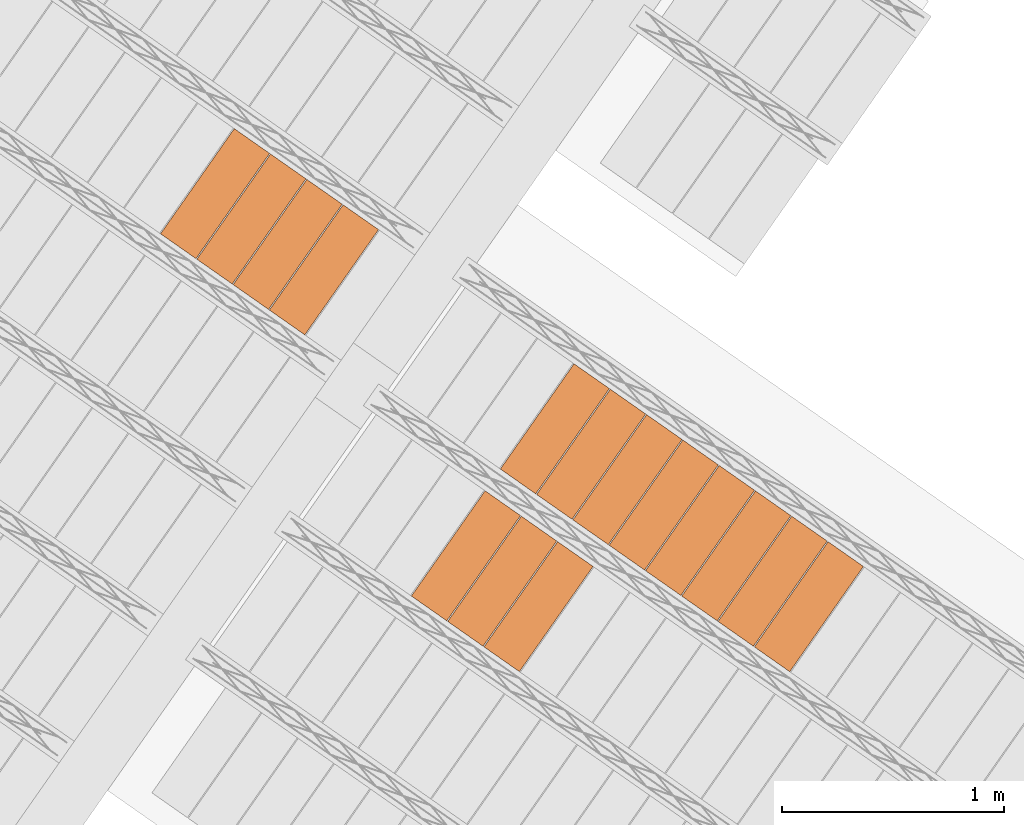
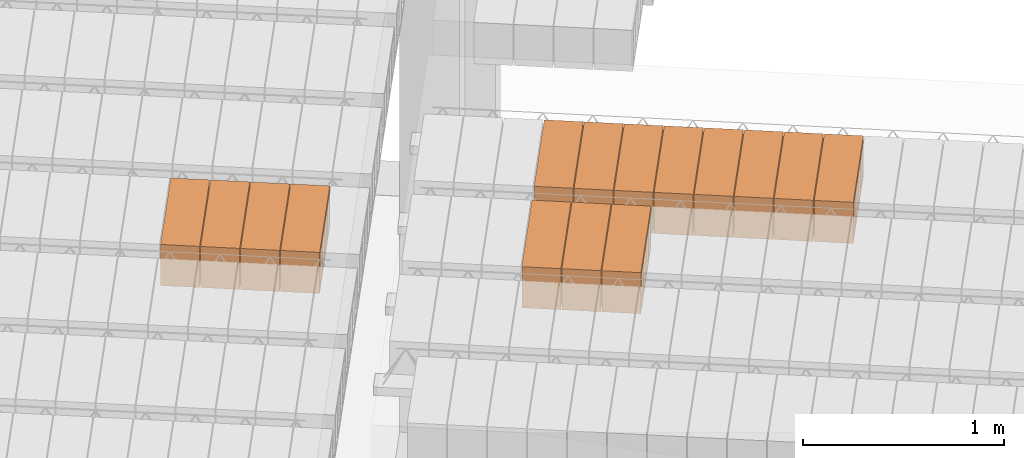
# One storey, part 66 of 80: 15 proxies.
"""IFC2X3 building model written with IfcOpenShell, lengths in metres."""

from ifc_helpers import new_model, entity, si_unit, converted_unit, derived_unit, direction, frame, origin, place, context, subcontext, project, spatial, polyline, outline, extrude, type_object, element, save


model = new_model("IFC2X3")

# Units and contexts
model_context = context("Model", 3, precision=1e-05, world=origin(), true_north=direction((6.123031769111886e-17, 1.0)))
body_context = subcontext(model_context, "Body", "Model", "MODEL_VIEW")
ifc_project = project(units=[si_unit("LENGTHUNIT", "METRE"), si_unit("AREAUNIT", "SQUARE_METRE"), si_unit("VOLUMEUNIT", "CUBIC_METRE"), converted_unit("PLANEANGLEUNIT", "DEGREE", entity("IfcPlaneAngleMeasure", 0.017453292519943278), si_unit("PLANEANGLEUNIT", "RADIAN"), dimensions=[0, 0, 0, 0, 0, 0, 0]), si_unit("MASSUNIT", "GRAM", prefix="KILO"), derived_unit("MASSDENSITYUNIT", [(si_unit("MASSUNIT", "GRAM", prefix="KILO"), 1), (si_unit("LENGTHUNIT", "METRE"), -3)]), derived_unit("IONCONCENTRATIONUNIT", [(si_unit("MASSUNIT", "GRAM", prefix="KILO"), 1), (si_unit("LENGTHUNIT", "METRE"), -3)]), derived_unit("MOMENTOFINERTIAUNIT", [(si_unit("LENGTHUNIT", "METRE"), 4)]), si_unit("TIMEUNIT", "SECOND"), si_unit("FREQUENCYUNIT", "HERTZ"), si_unit("THERMODYNAMICTEMPERATUREUNIT", "DEGREE_CELSIUS"), derived_unit("THERMALTRANSMITTANCEUNIT", [(si_unit("MASSUNIT", "GRAM", prefix="KILO"), 1), (si_unit("THERMODYNAMICTEMPERATUREUNIT", "KELVIN"), -1), (si_unit("TIMEUNIT", "SECOND"), -3)]), derived_unit("THERMALCONDUCTANCEUNIT", [(si_unit("MASSUNIT", "GRAM", prefix="KILO"), 1), (si_unit("THERMODYNAMICTEMPERATUREUNIT", "KELVIN"), -1), (si_unit("TIMEUNIT", "SECOND"), -3), (si_unit("LENGTHUNIT", "METRE"), 1)]), derived_unit("VOLUMETRICFLOWRATEUNIT", [(si_unit("LENGTHUNIT", "METRE", prefix="DECI"), 3), (si_unit("TIMEUNIT", "SECOND"), -1)]), derived_unit("MASSFLOWRATEUNIT", [(si_unit("MASSUNIT", "GRAM", prefix="KILO"), 1), (si_unit("TIMEUNIT", "SECOND"), -1)]), derived_unit("ROTATIONALFREQUENCYUNIT", [(si_unit("TIMEUNIT", "SECOND"), -1)]), si_unit("ELECTRICCURRENTUNIT", "AMPERE"), si_unit("ELECTRICVOLTAGEUNIT", "VOLT"), si_unit("POWERUNIT", "WATT"), si_unit("FORCEUNIT", "NEWTON", prefix="KILO"), si_unit("ILLUMINANCEUNIT", "LUX"), si_unit("LUMINOUSFLUXUNIT", "LUMEN"), si_unit("LUMINOUSINTENSITYUNIT", "CANDELA"), si_unit("ENERGYUNIT", "JOULE"), derived_unit("USERDEFINED", [(si_unit("MASSUNIT", "GRAM", prefix="KILO"), -1), (si_unit("LENGTHUNIT", "METRE"), -2), (si_unit("TIMEUNIT", "SECOND"), 3), (si_unit("LUMINOUSFLUXUNIT", "LUMEN"), 1)]), derived_unit("USERDEFINED", [(si_unit("MASSUNIT", "GRAM", prefix="KILO"), 1), (si_unit("TIMEUNIT", "SECOND"), -3), (si_unit("LENGTHUNIT", "METRE"), 3), (si_unit("ELECTRICCURRENTUNIT", "AMPERE"), -2)]), derived_unit("SOUNDPOWERUNIT", [(si_unit("MASSUNIT", "GRAM", prefix="KILO"), 1), (si_unit("TIMEUNIT", "SECOND"), -3), (si_unit("LENGTHUNIT", "METRE"), 2)]), derived_unit("SOUNDPRESSUREUNIT", [(si_unit("MASSUNIT", "GRAM", prefix="KILO"), 1), (si_unit("LENGTHUNIT", "METRE"), -1), (si_unit("TIMEUNIT", "SECOND"), -2)]), derived_unit("LINEARVELOCITYUNIT", [(si_unit("LENGTHUNIT", "METRE"), 1), (si_unit("TIMEUNIT", "SECOND"), -1)]), si_unit("PRESSUREUNIT", "PASCAL"), derived_unit("USERDEFINED", [(si_unit("MASSUNIT", "GRAM", prefix="KILO"), 1), (si_unit("LENGTHUNIT", "METRE"), -2), (si_unit("TIMEUNIT", "SECOND"), -2)]), derived_unit("LINEARFORCEUNIT", [(si_unit("MASSUNIT", "GRAM", prefix="KILO"), 1), (si_unit("TIMEUNIT", "SECOND"), -2)]), derived_unit("PLANARFORCEUNIT", [(si_unit("MASSUNIT", "GRAM", prefix="KILO"), 1), (si_unit("LENGTHUNIT", "METRE"), -1), (si_unit("TIMEUNIT", "SECOND"), -2)]), derived_unit("SPECIFICHEATCAPACITYUNIT", [(si_unit("THERMODYNAMICTEMPERATUREUNIT", "KELVIN"), -1), (si_unit("LENGTHUNIT", "METRE"), 2), (si_unit("TIMEUNIT", "SECOND"), -2)]), derived_unit("HEATFLUXDENSITYUNIT", [(si_unit("MASSUNIT", "GRAM", prefix="KILO"), 1), (si_unit("TIMEUNIT", "SECOND"), -3)]), derived_unit("HEATINGVALUEUNIT", [(si_unit("LENGTHUNIT", "METRE"), 2), (si_unit("TIMEUNIT", "SECOND"), -2)]), derived_unit("VAPORPERMEABILITYUNIT", [(si_unit("LENGTHUNIT", "METRE"), -1), (si_unit("TIMEUNIT", "SECOND"), 1)]), derived_unit("DYNAMICVISCOSITYUNIT", [(si_unit("MASSUNIT", "GRAM", prefix="KILO"), 1), (si_unit("TIMEUNIT", "SECOND"), -1), (si_unit("LENGTHUNIT", "METRE"), -1)]), derived_unit("THERMALEXPANSIONCOEFFICIENTUNIT", [(si_unit("THERMODYNAMICTEMPERATUREUNIT", "KELVIN"), -1)]), derived_unit("MODULUSOFELASTICITYUNIT", [(si_unit("MASSUNIT", "GRAM", prefix="KILO"), 1), (si_unit("LENGTHUNIT", "METRE"), -1), (si_unit("TIMEUNIT", "SECOND"), -2)]), derived_unit("ISOTHERMALMOISTURECAPACITYUNIT", [(si_unit("MASSUNIT", "GRAM", prefix="KILO"), -1), (si_unit("LENGTHUNIT", "METRE"), 3)]), derived_unit("MOISTUREDIFFUSIVITYUNIT", [(si_unit("TIMEUNIT", "SECOND"), -1), (si_unit("LENGTHUNIT", "METRE"), 2)]), derived_unit("MASSPERLENGTHUNIT", [(si_unit("MASSUNIT", "GRAM", prefix="KILO"), 1), (si_unit("LENGTHUNIT", "METRE"), -1)]), derived_unit("THERMALRESISTANCEUNIT", [(si_unit("MASSUNIT", "GRAM", prefix="KILO"), -1), (si_unit("TIMEUNIT", "SECOND"), 3), (si_unit("THERMODYNAMICTEMPERATUREUNIT", "KELVIN"), 1)]), derived_unit("ACCELERATIONUNIT", [(si_unit("LENGTHUNIT", "METRE"), 1), (si_unit("TIMEUNIT", "SECOND"), -2)]), derived_unit("ANGULARVELOCITYUNIT", [(si_unit("TIMEUNIT", "SECOND"), -1), (si_unit("PLANEANGLEUNIT", "RADIAN"), 1)]), derived_unit("LINEARSTIFFNESSUNIT", [(si_unit("MASSUNIT", "GRAM", prefix="KILO"), 1), (si_unit("TIMEUNIT", "SECOND"), -2)]), derived_unit("WARPINGCONSTANTUNIT", [(si_unit("LENGTHUNIT", "METRE"), 6)]), derived_unit("LINEARMOMENTUNIT", [(si_unit("MASSUNIT", "GRAM", prefix="KILO"), 1), (si_unit("LENGTHUNIT", "METRE"), 1), (si_unit("TIMEUNIT", "SECOND"), -2)]), derived_unit("TORQUEUNIT", [(si_unit("MASSUNIT", "GRAM", prefix="KILO"), 1), (si_unit("LENGTHUNIT", "METRE"), 2), (si_unit("TIMEUNIT", "SECOND"), -2)])], contexts=[model_context])

# Site, building, storey
site_placement = place(None, origin())
site = spatial("IfcSite", under=ifc_project, at=site_placement, Name="Default", CompositionType="ELEMENT")
building_placement = place(site_placement, origin())
building = spatial("IfcBuilding", under=site, at=building_placement, CompositionType="ELEMENT")
storey_placement = place(building_placement, frame((0.0, 0.0, 95.94)))
storey = spatial("IfcBuildingStorey", under=building, at=storey_placement, Name="PB", CompositionType="ELEMENT", Elevation=95.94)

# Proxies
building_element_proxy_type_1 = type_object("IfcBuildingElementProxyType", Name="Bovedilla 8-2 (Paño 2)", PredefinedType="USERDEFINED")
proxy_1_placement = place(storey_placement, origin())
element("IfcBuildingElementProxy", 1, at=proxy_1_placement, inside=storey, type_object=building_element_proxy_type_1, Name="Bovedilla 8-2 (Paño 2)", ObjectType="FORM", context=body_context, shape_type="SweptSolid", body=[
    extrude(outline(polyline([(-0.28999999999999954, -0.12500000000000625), (0.28999999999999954, -0.12500000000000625), (0.28999999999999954, 0.12500000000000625), (-0.28999999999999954, 0.12500000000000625), (-0.28999999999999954, -0.12500000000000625)]), holes=[polyline([(0.2699999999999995, -0.10499999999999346), (0.15500000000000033, -0.10499999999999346), (0.15500000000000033, 0.10499999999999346), (0.2699999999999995, 0.10499999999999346), (0.2699999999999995, 0.042499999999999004), (0.2699999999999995, -0.10499999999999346)]), polyline([(0.009999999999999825, -0.10499999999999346), (0.009999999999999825, 0.10499999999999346), (0.1350000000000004, 0.10499999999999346), (0.1350000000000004, -0.10499999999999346), (0.009999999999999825, -0.10499999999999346)]), polyline([(-0.1350000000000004, 0.10499999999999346), (-0.009999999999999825, 0.10499999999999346), (-0.009999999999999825, -0.10499999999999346), (-0.1350000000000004, -0.10499999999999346), (-0.1350000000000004, 0.10499999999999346)]), polyline([(-0.2699999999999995, -0.10499999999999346), (-0.2699999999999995, 0.042499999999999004), (-0.2699999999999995, 0.10499999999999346), (-0.15500000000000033, 0.10499999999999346), (-0.15500000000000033, -0.10499999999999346), (-0.2699999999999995, -0.10499999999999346)])]), frame((3.8705212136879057, 5.5914435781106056, 2.945000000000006), z_axis=(0.8191520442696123, -0.5735764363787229, 0.0), x_axis=(-0.5735764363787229, -0.8191520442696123, 0.0)), (0.0, 0.0, 1.0), 0.19499999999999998),
])
building_element_proxy_type_2 = type_object("IfcBuildingElementProxyType", Name="Bovedilla 8-3 (Paño 2)", PredefinedType="USERDEFINED")
proxy_2_placement = place(storey_placement, origin())
element("IfcBuildingElementProxy", 2, at=proxy_2_placement, inside=storey, type_object=building_element_proxy_type_2, Name="Bovedilla 8-3 (Paño 2)", ObjectType="FORM", context=body_context, shape_type="SweptSolid", body=[
    extrude(outline(polyline([(-0.28999999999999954, -0.12500000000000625), (0.28999999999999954, -0.12500000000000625), (0.28999999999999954, 0.12500000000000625), (-0.28999999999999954, 0.12500000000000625), (-0.28999999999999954, -0.12500000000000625)]), holes=[polyline([(0.2699999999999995, -0.10499999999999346), (0.15500000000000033, -0.10499999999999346), (0.15500000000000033, 0.10499999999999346), (0.2699999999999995, 0.10499999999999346), (0.2699999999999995, 0.042499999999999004), (0.2699999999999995, -0.10499999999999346)]), polyline([(0.009999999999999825, -0.10499999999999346), (0.009999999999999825, 0.10499999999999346), (0.1350000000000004, 0.10499999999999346), (0.1350000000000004, -0.10499999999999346), (0.009999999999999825, -0.10499999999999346)]), polyline([(-0.1350000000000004, 0.10499999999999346), (-0.009999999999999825, 0.10499999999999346), (-0.009999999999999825, -0.10499999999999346), (-0.1350000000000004, -0.10499999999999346), (-0.1350000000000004, 0.10499999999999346)]), polyline([(-0.2699999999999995, -0.10499999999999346), (-0.2699999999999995, 0.042499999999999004), (-0.2699999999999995, 0.10499999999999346), (-0.15500000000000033, 0.10499999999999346), (-0.15500000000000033, -0.10499999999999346), (-0.2699999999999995, -0.10499999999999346)])]), frame((3.706690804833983, 5.7061588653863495, 2.945000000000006), z_axis=(0.8191520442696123, -0.5735764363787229, 0.0), x_axis=(-0.5735764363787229, -0.8191520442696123, 0.0)), (0.0, 0.0, 1.0), 0.19499999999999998),
])
building_element_proxy_type_3 = type_object("IfcBuildingElementProxyType", Name="Bovedilla 8-4 (Paño 2)", PredefinedType="USERDEFINED")
proxy_3_placement = place(storey_placement, origin())
element("IfcBuildingElementProxy", 3, at=proxy_3_placement, inside=storey, type_object=building_element_proxy_type_3, Name="Bovedilla 8-4 (Paño 2)", ObjectType="FORM", context=body_context, shape_type="SweptSolid", body=[
    extrude(outline(polyline([(-0.28999999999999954, -0.12500000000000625), (0.28999999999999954, -0.12500000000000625), (0.28999999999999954, 0.12500000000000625), (-0.28999999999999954, 0.12500000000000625), (-0.28999999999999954, -0.12500000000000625)]), holes=[polyline([(0.2699999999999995, -0.10499999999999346), (0.15500000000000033, -0.10499999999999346), (0.15500000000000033, 0.10499999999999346), (0.2699999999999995, 0.10499999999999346), (0.2699999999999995, 0.042499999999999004), (0.2699999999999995, -0.10499999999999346)]), polyline([(0.009999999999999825, -0.10499999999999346), (0.009999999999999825, 0.10499999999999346), (0.1350000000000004, 0.10499999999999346), (0.1350000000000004, -0.10499999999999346), (0.009999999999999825, -0.10499999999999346)]), polyline([(-0.1350000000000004, 0.10499999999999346), (-0.009999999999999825, 0.10499999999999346), (-0.009999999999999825, -0.10499999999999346), (-0.1350000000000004, -0.10499999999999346), (-0.1350000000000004, 0.10499999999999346)]), polyline([(-0.2699999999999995, -0.10499999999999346), (-0.2699999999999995, 0.042499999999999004), (-0.2699999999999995, 0.10499999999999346), (-0.15500000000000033, 0.10499999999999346), (-0.15500000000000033, -0.10499999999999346), (-0.2699999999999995, -0.10499999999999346)])]), frame((3.5428603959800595, 5.8208741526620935, 2.945000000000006), z_axis=(0.8191520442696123, -0.5735764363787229, 0.0), x_axis=(-0.5735764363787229, -0.8191520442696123, 0.0)), (0.0, 0.0, 1.0), 0.19499999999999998),
])
building_element_proxy_type_4 = type_object("IfcBuildingElementProxyType", Name="Bovedilla 8-5 (Paño 2)", PredefinedType="USERDEFINED")
proxy_4_placement = place(storey_placement, origin())
element("IfcBuildingElementProxy", 4, at=proxy_4_placement, inside=storey, type_object=building_element_proxy_type_4, Name="Bovedilla 8-5 (Paño 2)", ObjectType="FORM", context=body_context, shape_type="SweptSolid", body=[
    extrude(outline(polyline([(-0.28999999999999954, -0.12500000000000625), (0.28999999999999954, -0.12500000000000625), (0.28999999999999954, 0.12500000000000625), (-0.28999999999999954, 0.12500000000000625), (-0.28999999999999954, -0.12500000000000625)]), holes=[polyline([(0.2699999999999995, -0.10499999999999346), (0.15500000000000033, -0.10499999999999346), (0.15500000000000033, 0.10499999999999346), (0.2699999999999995, 0.10499999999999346), (0.2699999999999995, 0.042499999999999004), (0.2699999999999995, -0.10499999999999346)]), polyline([(0.009999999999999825, -0.10499999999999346), (0.009999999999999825, 0.10499999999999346), (0.1350000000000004, 0.10499999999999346), (0.1350000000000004, -0.10499999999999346), (0.009999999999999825, -0.10499999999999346)]), polyline([(-0.1350000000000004, 0.10499999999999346), (-0.009999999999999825, 0.10499999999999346), (-0.009999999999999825, -0.10499999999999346), (-0.1350000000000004, -0.10499999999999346), (-0.1350000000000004, 0.10499999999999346)]), polyline([(-0.2699999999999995, -0.10499999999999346), (-0.2699999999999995, 0.042499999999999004), (-0.2699999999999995, 0.10499999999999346), (-0.15500000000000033, 0.10499999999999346), (-0.15500000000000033, -0.10499999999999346), (-0.2699999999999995, -0.10499999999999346)])]), frame((3.3790299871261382, 5.9355894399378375, 2.945000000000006), z_axis=(0.8191520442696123, -0.5735764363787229, 0.0), x_axis=(-0.5735764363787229, -0.8191520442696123, 0.0)), (0.0, 0.0, 1.0), 0.19499999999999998),
])
building_element_proxy_type_5 = type_object("IfcBuildingElementProxyType", Name="Bovedilla 2-20 (Paño 6)", PredefinedType="USERDEFINED")
proxy_5_placement = place(storey_placement, origin())
element("IfcBuildingElementProxy", 5, at=proxy_5_placement, inside=storey, type_object=building_element_proxy_type_5, Name="Bovedilla 2-20 (Paño 6)", ObjectType="FORM", context=body_context, shape_type="SweptSolid", body=[
    extrude(outline(polyline([(-0.29, -0.12500000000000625), (0.29, -0.12500000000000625), (0.29, 0.12500000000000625), (-0.29, 0.12500000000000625), (-0.29, -0.12500000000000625)]), holes=[polyline([(0.27000000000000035, -0.10499999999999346), (0.15500000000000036, -0.10499999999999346), (0.15500000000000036, 0.10499999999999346), (0.27000000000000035, 0.10499999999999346), (0.27000000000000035, 0.042499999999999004), (0.27000000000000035, -0.10499999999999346)]), polyline([(0.009999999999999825, -0.10499999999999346), (0.009999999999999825, 0.10499999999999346), (0.13499999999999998, 0.10499999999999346), (0.13499999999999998, -0.10499999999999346), (0.009999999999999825, -0.10499999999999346)]), polyline([(-0.13499999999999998, 0.10499999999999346), (-0.009999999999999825, 0.10499999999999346), (-0.009999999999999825, -0.10499999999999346), (-0.13499999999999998, -0.10499999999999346), (-0.13499999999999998, 0.10499999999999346)]), polyline([(-0.27000000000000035, -0.10499999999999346), (-0.27000000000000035, 0.042499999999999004), (-0.27000000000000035, 0.10499999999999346), (-0.15500000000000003, 0.10499999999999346), (-0.15500000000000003, -0.10499999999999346), (-0.27000000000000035, -0.10499999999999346)])]), frame((4.839095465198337, 4.0709061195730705, 3.4050000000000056), z_axis=(0.819152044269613, -0.5735764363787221, 0.0), x_axis=(-0.5735764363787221, -0.819152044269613, 0.0)), (0.0, 0.0, 1.0), 0.19499999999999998),
])
building_element_proxy_type_6 = type_object("IfcBuildingElementProxyType", Name="Bovedilla 2-21 (Paño 6)", PredefinedType="USERDEFINED")
proxy_6_placement = place(storey_placement, origin())
element("IfcBuildingElementProxy", 6, at=proxy_6_placement, inside=storey, type_object=building_element_proxy_type_6, Name="Bovedilla 2-21 (Paño 6)", ObjectType="FORM", context=body_context, shape_type="SweptSolid", body=[
    extrude(outline(polyline([(-0.29, -0.12500000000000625), (0.29, -0.12500000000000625), (0.29, 0.12500000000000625), (-0.29, 0.12500000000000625), (-0.29, -0.12500000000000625)]), holes=[polyline([(0.27000000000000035, -0.10499999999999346), (0.15500000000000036, -0.10499999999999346), (0.15500000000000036, 0.10499999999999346), (0.27000000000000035, 0.10499999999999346), (0.27000000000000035, 0.042499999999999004), (0.27000000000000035, -0.10499999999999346)]), polyline([(0.009999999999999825, -0.10499999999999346), (0.009999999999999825, 0.10499999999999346), (0.13499999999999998, 0.10499999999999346), (0.13499999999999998, -0.10499999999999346), (0.009999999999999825, -0.10499999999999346)]), polyline([(-0.13499999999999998, 0.10499999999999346), (-0.009999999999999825, 0.10499999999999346), (-0.009999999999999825, -0.10499999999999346), (-0.13499999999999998, -0.10499999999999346), (-0.13499999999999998, 0.10499999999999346)]), polyline([(-0.27000000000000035, -0.10499999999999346), (-0.27000000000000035, 0.042499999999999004), (-0.27000000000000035, 0.10499999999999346), (-0.15500000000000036, 0.10499999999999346), (-0.15500000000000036, -0.10499999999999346), (-0.27000000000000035, -0.10499999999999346)])]), frame((4.675265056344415, 4.1856214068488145, 3.4050000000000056), z_axis=(0.819152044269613, -0.5735764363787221, 0.0), x_axis=(-0.5735764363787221, -0.819152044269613, 0.0)), (0.0, 0.0, 1.0), 0.19499999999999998),
])
building_element_proxy_type_7 = type_object("IfcBuildingElementProxyType", Name="Bovedilla 2-22 (Paño 6)", PredefinedType="USERDEFINED")
proxy_7_placement = place(storey_placement, origin())
element("IfcBuildingElementProxy", 7, at=proxy_7_placement, inside=storey, type_object=building_element_proxy_type_7, Name="Bovedilla 2-22 (Paño 6)", ObjectType="FORM", context=body_context, shape_type="SweptSolid", body=[
    extrude(outline(polyline([(-0.29, -0.12500000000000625), (0.29, -0.12500000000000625), (0.29, 0.12500000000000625), (-0.29, 0.12500000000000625), (-0.29, -0.12500000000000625)]), holes=[polyline([(0.27000000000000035, -0.10499999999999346), (0.15500000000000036, -0.10499999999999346), (0.15500000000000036, 0.10499999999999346), (0.27000000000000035, 0.10499999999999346), (0.27000000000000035, 0.042499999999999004), (0.27000000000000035, -0.10499999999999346)]), polyline([(0.009999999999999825, -0.10499999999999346), (0.009999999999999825, 0.10499999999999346), (0.13499999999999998, 0.10499999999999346), (0.13499999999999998, -0.10499999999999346), (0.009999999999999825, -0.10499999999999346)]), polyline([(-0.13499999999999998, 0.10499999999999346), (-0.009999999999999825, 0.10499999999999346), (-0.009999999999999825, -0.10499999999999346), (-0.13499999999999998, -0.10499999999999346), (-0.13499999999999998, 0.10499999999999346)]), polyline([(-0.27000000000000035, -0.10499999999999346), (-0.27000000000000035, 0.042499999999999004), (-0.27000000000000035, 0.10499999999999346), (-0.15500000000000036, 0.10499999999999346), (-0.15500000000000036, -0.10499999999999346), (-0.27000000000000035, -0.10499999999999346)])]), frame((4.511434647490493, 4.300336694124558, 3.4050000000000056), z_axis=(0.819152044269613, -0.5735764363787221, 0.0), x_axis=(-0.5735764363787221, -0.819152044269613, 0.0)), (0.0, 0.0, 1.0), 0.19499999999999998),
])
building_element_proxy_type_8 = type_object("IfcBuildingElementProxyType", Name="Bovedilla 3-15 (Paño 6)", PredefinedType="USERDEFINED")
proxy_8_placement = place(storey_placement, origin())
element("IfcBuildingElementProxy", 8, at=proxy_8_placement, inside=storey, type_object=building_element_proxy_type_8, Name="Bovedilla 3-15 (Paño 6)", ObjectType="FORM", context=body_context, shape_type="SweptSolid", body=[
    extrude(outline(polyline([(-0.29, -0.12500000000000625), (0.29, -0.12500000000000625), (0.29, 0.12500000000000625), (-0.29, 0.12500000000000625), (-0.29, -0.12500000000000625)]), holes=[polyline([(0.27000000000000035, -0.10499999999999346), (0.15500000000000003, -0.10499999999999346), (0.15500000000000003, 0.10499999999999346), (0.27000000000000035, 0.10499999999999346), (0.27000000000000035, 0.042499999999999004), (0.27000000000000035, -0.10499999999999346)]), polyline([(0.009999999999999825, -0.10499999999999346), (0.009999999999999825, 0.10499999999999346), (0.13499999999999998, 0.10499999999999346), (0.13499999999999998, -0.10499999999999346), (0.009999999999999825, -0.10499999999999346)]), polyline([(-0.13499999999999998, 0.10499999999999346), (-0.009999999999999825, 0.10499999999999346), (-0.009999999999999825, -0.10499999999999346), (-0.13499999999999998, -0.10499999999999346), (-0.13499999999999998, 0.10499999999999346)]), polyline([(-0.27000000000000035, -0.10499999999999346), (-0.27000000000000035, 0.042499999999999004), (-0.27000000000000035, 0.10499999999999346), (-0.15500000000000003, 0.10499999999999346), (-0.15500000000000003, -0.10499999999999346), (-0.27000000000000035, -0.10499999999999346)])]), frame((6.059751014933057, 4.0707361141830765, 3.4050000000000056), z_axis=(0.819152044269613, -0.5735764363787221, 0.0), x_axis=(-0.5735764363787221, -0.819152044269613, 0.0)), (0.0, 0.0, 1.0), 0.19499999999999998),
])
building_element_proxy_type_9 = type_object("IfcBuildingElementProxyType", Name="Bovedilla 3-16 (Paño 6)", PredefinedType="USERDEFINED")
proxy_9_placement = place(storey_placement, origin())
element("IfcBuildingElementProxy", 9, at=proxy_9_placement, inside=storey, type_object=building_element_proxy_type_9, Name="Bovedilla 3-16 (Paño 6)", ObjectType="FORM", context=body_context, shape_type="SweptSolid", body=[
    extrude(outline(polyline([(-0.29, -0.12500000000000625), (0.29, -0.12500000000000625), (0.29, 0.12500000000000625), (-0.29, 0.12500000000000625), (-0.29, -0.12500000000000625)]), holes=[polyline([(0.27000000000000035, -0.10499999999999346), (0.15500000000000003, -0.10499999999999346), (0.15500000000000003, 0.10499999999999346), (0.27000000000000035, 0.10499999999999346), (0.27000000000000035, 0.042499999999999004), (0.27000000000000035, -0.10499999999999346)]), polyline([(0.009999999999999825, -0.10499999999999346), (0.009999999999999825, 0.10499999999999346), (0.13499999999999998, 0.10499999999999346), (0.13499999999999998, -0.10499999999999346), (0.009999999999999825, -0.10499999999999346)]), polyline([(-0.13499999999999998, 0.10499999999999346), (-0.009999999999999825, 0.10499999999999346), (-0.009999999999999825, -0.10499999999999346), (-0.13499999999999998, -0.10499999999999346), (-0.13499999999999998, 0.10499999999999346)]), polyline([(-0.27000000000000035, -0.10499999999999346), (-0.27000000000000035, 0.042499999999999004), (-0.27000000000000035, 0.10499999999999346), (-0.15500000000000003, 0.10499999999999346), (-0.15500000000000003, -0.10499999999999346), (-0.27000000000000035, -0.10499999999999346)])]), frame((5.895920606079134, 4.18545140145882, 3.4050000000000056), z_axis=(0.819152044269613, -0.5735764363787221, 0.0), x_axis=(-0.5735764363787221, -0.819152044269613, 0.0)), (0.0, 0.0, 1.0), 0.19499999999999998),
])
building_element_proxy_type_10 = type_object("IfcBuildingElementProxyType", Name="Bovedilla 3-17 (Paño 6)", PredefinedType="USERDEFINED")
proxy_10_placement = place(storey_placement, origin())
element("IfcBuildingElementProxy", 10, at=proxy_10_placement, inside=storey, type_object=building_element_proxy_type_10, Name="Bovedilla 3-17 (Paño 6)", ObjectType="FORM", context=body_context, shape_type="SweptSolid", body=[
    extrude(outline(polyline([(-0.29, -0.12500000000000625), (0.29, -0.12500000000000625), (0.29, 0.12500000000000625), (-0.29, 0.12500000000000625), (-0.29, -0.12500000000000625)]), holes=[polyline([(0.27000000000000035, -0.10499999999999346), (0.15500000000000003, -0.10499999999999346), (0.15500000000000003, 0.10499999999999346), (0.27000000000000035, 0.10499999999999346), (0.27000000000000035, 0.042499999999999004), (0.27000000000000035, -0.10499999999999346)]), polyline([(0.009999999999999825, -0.10499999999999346), (0.009999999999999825, 0.10499999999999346), (0.13499999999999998, 0.10499999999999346), (0.13499999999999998, -0.10499999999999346), (0.009999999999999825, -0.10499999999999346)]), polyline([(-0.13499999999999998, 0.10499999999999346), (-0.009999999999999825, 0.10499999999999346), (-0.009999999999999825, -0.10499999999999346), (-0.13499999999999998, -0.10499999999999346), (-0.13499999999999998, 0.10499999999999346)]), polyline([(-0.27000000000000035, -0.10499999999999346), (-0.27000000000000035, 0.042499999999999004), (-0.27000000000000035, 0.10499999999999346), (-0.15500000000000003, 0.10499999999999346), (-0.15500000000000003, -0.10499999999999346), (-0.27000000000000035, -0.10499999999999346)])]), frame((5.732090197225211, 4.300166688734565, 3.4050000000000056), z_axis=(0.819152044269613, -0.5735764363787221, 0.0), x_axis=(-0.5735764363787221, -0.819152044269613, 0.0)), (0.0, 0.0, 1.0), 0.19499999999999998),
])
building_element_proxy_type_11 = type_object("IfcBuildingElementProxyType", Name="Bovedilla 3-18 (Paño 6)", PredefinedType="USERDEFINED")
proxy_11_placement = place(storey_placement, origin())
element("IfcBuildingElementProxy", 11, at=proxy_11_placement, inside=storey, type_object=building_element_proxy_type_11, Name="Bovedilla 3-18 (Paño 6)", ObjectType="FORM", context=body_context, shape_type="SweptSolid", body=[
    extrude(outline(polyline([(-0.29, -0.12500000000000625), (0.29, -0.12500000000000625), (0.29, 0.12500000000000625), (-0.29, 0.12500000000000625), (-0.29, -0.12500000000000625)]), holes=[polyline([(0.27000000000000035, -0.10499999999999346), (0.15500000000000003, -0.10499999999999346), (0.15500000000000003, 0.10499999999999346), (0.27000000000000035, 0.10499999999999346), (0.27000000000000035, 0.042499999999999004), (0.27000000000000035, -0.10499999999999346)]), polyline([(0.009999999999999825, -0.10499999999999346), (0.009999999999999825, 0.10499999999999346), (0.13499999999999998, 0.10499999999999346), (0.13499999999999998, -0.10499999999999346), (0.009999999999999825, -0.10499999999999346)]), polyline([(-0.13499999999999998, 0.10499999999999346), (-0.009999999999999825, 0.10499999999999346), (-0.009999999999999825, -0.10499999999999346), (-0.13499999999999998, -0.10499999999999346), (-0.13499999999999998, 0.10499999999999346)]), polyline([(-0.27000000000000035, -0.10499999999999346), (-0.27000000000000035, 0.042499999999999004), (-0.27000000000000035, 0.10499999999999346), (-0.15500000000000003, 0.10499999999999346), (-0.15500000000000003, -0.10499999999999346), (-0.27000000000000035, -0.10499999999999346)])]), frame((5.568259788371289, 4.414881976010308, 3.4050000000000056), z_axis=(0.819152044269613, -0.5735764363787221, 0.0), x_axis=(-0.5735764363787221, -0.819152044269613, 0.0)), (0.0, 0.0, 1.0), 0.19499999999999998),
])
building_element_proxy_type_12 = type_object("IfcBuildingElementProxyType", Name="Bovedilla 3-19 (Paño 6)", PredefinedType="USERDEFINED")
proxy_12_placement = place(storey_placement, origin())
element("IfcBuildingElementProxy", 12, at=proxy_12_placement, inside=storey, type_object=building_element_proxy_type_12, Name="Bovedilla 3-19 (Paño 6)", ObjectType="FORM", context=body_context, shape_type="SweptSolid", body=[
    extrude(outline(polyline([(-0.29, -0.12500000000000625), (0.29, -0.12500000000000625), (0.29, 0.12500000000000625), (-0.29, 0.12500000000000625), (-0.29, -0.12500000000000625)]), holes=[polyline([(0.27000000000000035, -0.10499999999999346), (0.15500000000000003, -0.10499999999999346), (0.15500000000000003, 0.10499999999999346), (0.27000000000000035, 0.10499999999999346), (0.27000000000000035, 0.042499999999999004), (0.27000000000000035, -0.10499999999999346)]), polyline([(0.009999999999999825, -0.10499999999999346), (0.009999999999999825, 0.10499999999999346), (0.13499999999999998, 0.10499999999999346), (0.13499999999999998, -0.10499999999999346), (0.009999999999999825, -0.10499999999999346)]), polyline([(-0.13499999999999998, 0.10499999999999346), (-0.009999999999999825, 0.10499999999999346), (-0.009999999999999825, -0.10499999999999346), (-0.13499999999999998, -0.10499999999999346), (-0.13499999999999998, 0.10499999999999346)]), polyline([(-0.27000000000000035, -0.10499999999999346), (-0.27000000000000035, 0.042499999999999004), (-0.27000000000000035, 0.10499999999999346), (-0.15500000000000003, 0.10499999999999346), (-0.15500000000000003, -0.10499999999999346), (-0.27000000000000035, -0.10499999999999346)])]), frame((5.404429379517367, 4.529597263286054, 3.4050000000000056), z_axis=(0.819152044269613, -0.5735764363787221, 0.0), x_axis=(-0.5735764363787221, -0.819152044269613, 0.0)), (0.0, 0.0, 1.0), 0.19499999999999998),
])
building_element_proxy_type_13 = type_object("IfcBuildingElementProxyType", Name="Bovedilla 3-20 (Paño 6)", PredefinedType="USERDEFINED")
proxy_13_placement = place(storey_placement, origin())
element("IfcBuildingElementProxy", 13, at=proxy_13_placement, inside=storey, type_object=building_element_proxy_type_13, Name="Bovedilla 3-20 (Paño 6)", ObjectType="FORM", context=body_context, shape_type="SweptSolid", body=[
    extrude(outline(polyline([(-0.28999999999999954, -0.12500000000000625), (0.29, -0.12500000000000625), (0.29, 0.12500000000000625), (-0.28999999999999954, 0.12500000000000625), (-0.28999999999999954, -0.12500000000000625)]), holes=[polyline([(0.27000000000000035, -0.10499999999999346), (0.15500000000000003, -0.10499999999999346), (0.15500000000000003, 0.10499999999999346), (0.27000000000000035, 0.10499999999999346), (0.27000000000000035, 0.042499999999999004), (0.27000000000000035, -0.10499999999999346)]), polyline([(0.009999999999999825, -0.10499999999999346), (0.009999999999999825, 0.10499999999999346), (0.13499999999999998, 0.10499999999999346), (0.13499999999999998, -0.10499999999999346), (0.009999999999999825, -0.10499999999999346)]), polyline([(-0.13499999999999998, 0.10499999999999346), (-0.009999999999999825, 0.10499999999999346), (-0.009999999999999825, -0.10499999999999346), (-0.13499999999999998, -0.10499999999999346), (-0.13499999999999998, 0.10499999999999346)]), polyline([(-0.27000000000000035, -0.10499999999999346), (-0.27000000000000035, 0.042499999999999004), (-0.27000000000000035, 0.10499999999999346), (-0.15500000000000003, 0.10499999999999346), (-0.15500000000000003, -0.10499999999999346), (-0.27000000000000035, -0.10499999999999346)])]), frame((5.240598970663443, 4.644312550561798, 3.4050000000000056), z_axis=(0.8191520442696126, -0.5735764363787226, 0.0), x_axis=(-0.5735764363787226, -0.8191520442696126, 0.0)), (0.0, 0.0, 1.0), 0.19499999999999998),
])
building_element_proxy_type_14 = type_object("IfcBuildingElementProxyType", Name="Bovedilla 3-21 (Paño 6)", PredefinedType="USERDEFINED")
proxy_14_placement = place(storey_placement, origin())
element("IfcBuildingElementProxy", 14, at=proxy_14_placement, inside=storey, type_object=building_element_proxy_type_14, Name="Bovedilla 3-21 (Paño 6)", ObjectType="FORM", context=body_context, shape_type="SweptSolid", body=[
    extrude(outline(polyline([(-0.28999999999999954, -0.12500000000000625), (0.29, -0.12500000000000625), (0.29, 0.12500000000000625), (-0.28999999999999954, 0.12500000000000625), (-0.28999999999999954, -0.12500000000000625)]), holes=[polyline([(0.27000000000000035, -0.10499999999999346), (0.15500000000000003, -0.10499999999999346), (0.15500000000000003, 0.10499999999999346), (0.27000000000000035, 0.10499999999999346), (0.27000000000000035, 0.042499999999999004), (0.27000000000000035, -0.10499999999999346)]), polyline([(0.009999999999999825, -0.10499999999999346), (0.009999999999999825, 0.10499999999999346), (0.13499999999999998, 0.10499999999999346), (0.13499999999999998, -0.10499999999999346), (0.009999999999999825, -0.10499999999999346)]), polyline([(-0.13499999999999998, 0.10499999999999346), (-0.009999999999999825, 0.10499999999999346), (-0.009999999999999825, -0.10499999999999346), (-0.13499999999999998, -0.10499999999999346), (-0.13499999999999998, 0.10499999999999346)]), polyline([(-0.26999999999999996, -0.10499999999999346), (-0.26999999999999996, 0.042499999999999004), (-0.26999999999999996, 0.10499999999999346), (-0.15500000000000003, 0.10499999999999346), (-0.15500000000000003, -0.10499999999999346), (-0.26999999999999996, -0.10499999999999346)])]), frame((5.076768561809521, 4.759027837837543, 3.4050000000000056), z_axis=(0.8191520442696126, -0.5735764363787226, 0.0), x_axis=(-0.5735764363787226, -0.8191520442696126, 0.0)), (0.0, 0.0, 1.0), 0.19499999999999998),
])
building_element_proxy_type_15 = type_object("IfcBuildingElementProxyType", Name="Bovedilla 3-22 (Paño 6)", PredefinedType="USERDEFINED")
proxy_15_placement = place(storey_placement, origin())
element("IfcBuildingElementProxy", 15, at=proxy_15_placement, inside=storey, type_object=building_element_proxy_type_15, Name="Bovedilla 3-22 (Paño 6)", ObjectType="FORM", context=body_context, shape_type="SweptSolid", body=[
    extrude(outline(polyline([(-0.28999999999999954, -0.12500000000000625), (0.29, -0.12500000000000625), (0.29, 0.12500000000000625), (-0.28999999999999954, 0.12500000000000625), (-0.28999999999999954, -0.12500000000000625)]), holes=[polyline([(0.27000000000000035, -0.10499999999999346), (0.15500000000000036, -0.10499999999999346), (0.15500000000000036, 0.10499999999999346), (0.27000000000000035, 0.10499999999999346), (0.27000000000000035, 0.042499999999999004), (0.27000000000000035, -0.10499999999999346)]), polyline([(0.009999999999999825, -0.10499999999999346), (0.009999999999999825, 0.10499999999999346), (0.13499999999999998, 0.10499999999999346), (0.13499999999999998, -0.10499999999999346), (0.009999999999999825, -0.10499999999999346)]), polyline([(-0.1350000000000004, 0.10499999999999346), (-0.009999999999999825, 0.10499999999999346), (-0.009999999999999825, -0.10499999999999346), (-0.1350000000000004, -0.10499999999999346), (-0.1350000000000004, 0.10499999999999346)]), polyline([(-0.26999999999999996, -0.10499999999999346), (-0.26999999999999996, 0.042499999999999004), (-0.26999999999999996, 0.10499999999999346), (-0.15500000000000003, 0.10499999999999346), (-0.15500000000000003, -0.10499999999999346), (-0.26999999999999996, -0.10499999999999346)])]), frame((4.912938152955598, 4.873743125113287, 3.4050000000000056), z_axis=(0.8191520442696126, -0.5735764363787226, 0.0), x_axis=(-0.5735764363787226, -0.8191520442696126, 0.0)), (0.0, 0.0, 1.0), 0.19499999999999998),
])

save(model, "model.ifc")
